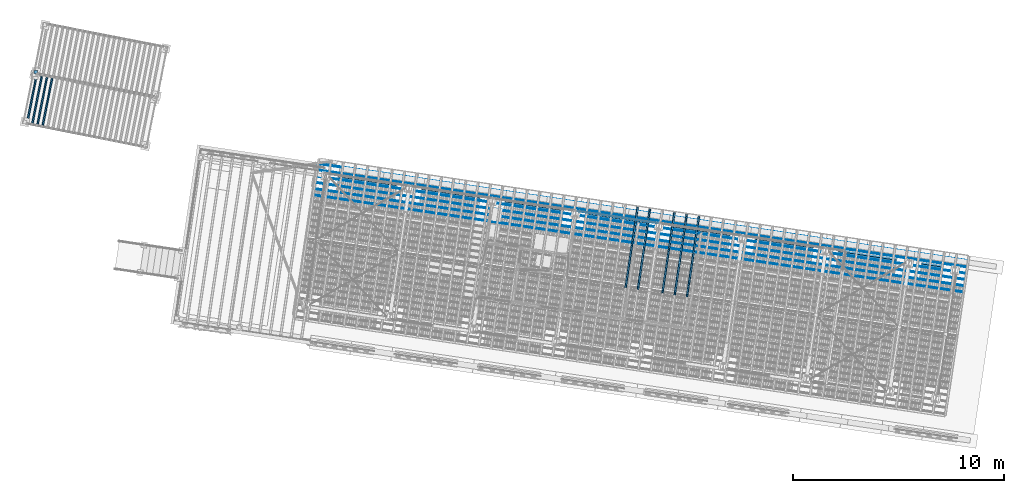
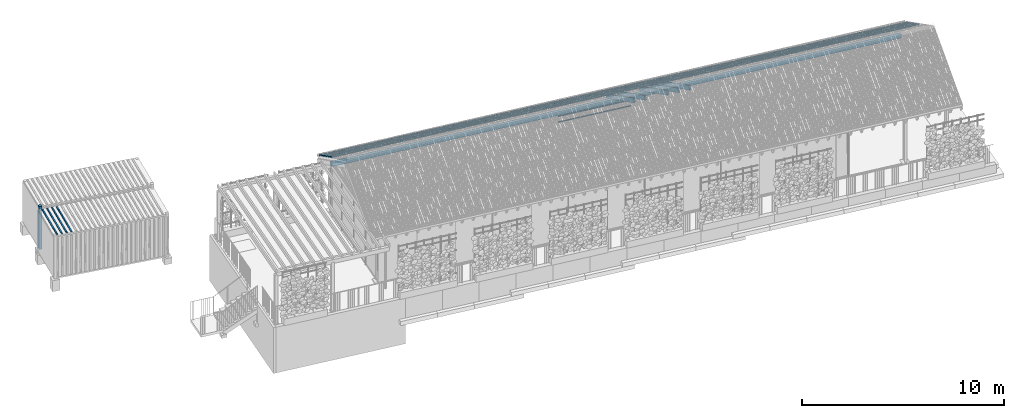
# One storey, part 78 of 128: 18 members, 2 beams, 3 elements without a shape of their own.
"""IFC4 building model written with IfcOpenShell, lengths in metres."""

from ifc_helpers import new_model, si_unit, direction, frame, origin_with_axes, place, context, subcontext, project, spatial, polyline, rectangle, outline, extrude, material, material_profile, profile_set, profile_usage, type_object, element, aggregate, save


model = new_model("IFC4")

# Units and contexts
model_context = context("Model", 3, precision=1e-05, world=origin_with_axes(), true_north=direction((0.0, 1.0)))
body_context = subcontext(model_context, "Body", "Model", "MODEL_VIEW")
ifc_project = project(units=[si_unit("VOLUMEUNIT", "CUBIC_METRE"), si_unit("LENGTHUNIT", "METRE"), si_unit("AREAUNIT", "SQUARE_METRE")], contexts=[model_context])

# Site, building, storey
site_placement = place(None, origin_with_axes())
site = spatial("IfcSite", under=ifc_project, at=site_placement, Name="Lares · Rua das Mercês · artigo 4771")
building_placement = place(site_placement, frame((15.0, 9.7, 13.9), z_axis=(0.0, 0.0, 1.0), x_axis=(0.989015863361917, -0.147809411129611, 0.0)))
building = spatial("IfcBuilding", under=site, at=building_placement, Name="Casa Sobreposta")
storey_placement = place(building_placement, origin_with_axes())
storey = spatial("IfcBuildingStorey", under=building, at=storey_placement, Name="00 · Habitação e estacionamento", Elevation=13.9)

# Beam
ifc_material_1 = material(Name="Madeira / Bauholz", Category="wood")
ifc_material_profile_1 = material_profile(ifc_material_1, rectangle(XDim=0.16, YDim=0.22))
ifc_profile_set_1 = profile_set([ifc_material_profile_1], Name="TIMBER0.160x0.220")
ifc_profile_usage_1 = profile_usage(ifc_profile_set_1)
beam_type_1 = type_object("IfcBeamType", Name="TIMBER0.160x0.220 / timber", PredefinedType="NOTDEFINED", material=ifc_profile_set_1)
beam_1_placement = place(storey_placement, frame((0.0, 6.28, 3.0), z_axis=(1.0, 0.0, 0.0), x_axis=(0.0, -1.0, 0.0)))
element("IfcBeam", 1, at=beam_1_placement, inside=storey, type_object=beam_type_1, material=ifc_profile_usage_1, Name="Cobertura · frechal longitudinal", context=body_context, shape_type="SweptSolid", body=[
    extrude(rectangle(XDim=0.16, YDim=0.22), origin_with_axes(), (0.0, 0.0, 1.0), 30.22),
])

# Members
ifc_material_2 = material(Name="Aço pintado / Stahl lackiert", Category="steel")
ifc_material_profile_2 = material_profile(ifc_material_2, rectangle(XDim=0.035, YDim=0.035))
ifc_profile_set_2 = profile_set([ifc_material_profile_2], Name="R0.035")
ifc_profile_usage_2 = profile_usage(ifc_profile_set_2)
member_type_1 = type_object("IfcMemberType", Name="R0.035 / steel", PredefinedType="NOTDEFINED", material=ifc_profile_set_2)
member_1_placement = place(storey_placement, frame((12.08, 6.4, 2.35), z_axis=(1.0, 0.0, 0.0), x_axis=(0.0, -1.0, 0.0)))
element("IfcMember", 2, at=member_1_placement, inside=storey, type_object=member_type_1, material=ifc_profile_usage_2, Name="Rasgo norte 4 · travessa", context=body_context, shape_type="SweptSolid", body=[
    extrude(rectangle(XDim=0.035, YDim=0.035), origin_with_axes(), (0.0, 0.0, 1.0), 3.84),
])
ifc_profile_usage_3 = profile_usage(ifc_profile_set_2)
member_2_placement = place(storey_placement, frame((12.08, 6.4, 2.7), z_axis=(1.0, 0.0, 0.0), x_axis=(0.0, -1.0, 0.0)))
element("IfcMember", 3, at=member_2_placement, inside=storey, type_object=member_type_1, material=ifc_profile_usage_3, Name="Rasgo norte 4 · travessa", context=body_context, shape_type="SweptSolid", body=[
    extrude(rectangle(XDim=0.035, YDim=0.035), origin_with_axes(), (0.0, 0.0, 1.0), 3.84),
])

# Roof, members, beam
roof_placement = place(storey_placement, origin_with_axes())
roof = element("IfcRoof", 4, at=roof_placement, inside=storey, material=ifc_material_1, Name="Cobertura de telha · duas águas 30 graus", PredefinedType="GABLE_ROOF")
ifc_material_profile_3 = material_profile(ifc_material_1, rectangle(XDim=0.08, YDim=0.24))
ifc_profile_set_3 = profile_set([ifc_material_profile_3], Name="TIMBER0.080x0.240")
ifc_profile_usage_4 = profile_usage(ifc_profile_set_3)
member_type_2 = type_object("IfcMemberType", Name="TIMBER0.080x0.240 / timber", PredefinedType="NOTDEFINED", material=ifc_profile_set_3)
member_3_placement = place(roof_placement, frame((14.8654716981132, 3.2, 5.0285208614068), z_axis=(0.0, 0.866025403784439, -0.5), x_axis=(1.0, 0.0, 0.0)))
member_3 = element("IfcMember", 5, at=member_3_placement, type_object=member_type_2, material=ifc_profile_usage_4, Name="Cobertura · caibro", context=body_context, shape_type="SweptSolid", body=[
    extrude(rectangle(XDim=0.08, YDim=0.24), origin_with_axes(), (0.0, 0.0, 1.0), 4.33012701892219),
])
ifc_profile_usage_5 = profile_usage(ifc_profile_set_3)
member_4_placement = place(roof_placement, frame((15.4545283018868, 3.2, 5.0285208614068), z_axis=(0.0, 0.866025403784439, -0.5), x_axis=(1.0, 0.0, 0.0)))
member_4 = element("IfcMember", 6, at=member_4_placement, type_object=member_type_2, material=ifc_profile_usage_5, Name="Cobertura · caibro", context=body_context, shape_type="SweptSolid", body=[
    extrude(rectangle(XDim=0.08, YDim=0.24), origin_with_axes(), (0.0, 0.0, 1.0), 4.33012701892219),
])
ifc_profile_usage_6 = profile_usage(ifc_profile_set_3)
member_5_placement = place(roof_placement, frame((16.632641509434, 3.2, 5.0285208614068), z_axis=(0.0, 0.866025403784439, -0.5), x_axis=(1.0, 0.0, 0.0)))
member_5 = element("IfcMember", 7, at=member_5_placement, type_object=member_type_2, material=ifc_profile_usage_6, Name="Cobertura · caibro", context=body_context, shape_type="SweptSolid", body=[
    extrude(rectangle(XDim=0.08, YDim=0.24), origin_with_axes(), (0.0, 0.0, 1.0), 4.33012701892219),
])
ifc_profile_usage_7 = profile_usage(ifc_profile_set_3)
member_6_placement = place(roof_placement, frame((17.2216981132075, 3.2, 5.0285208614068), z_axis=(0.0, 0.866025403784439, -0.5), x_axis=(1.0, 0.0, 0.0)))
member_6 = element("IfcMember", 8, at=member_6_placement, type_object=member_type_2, material=ifc_profile_usage_7, Name="Cobertura · caibro", context=body_context, shape_type="SweptSolid", body=[
    extrude(rectangle(XDim=0.08, YDim=0.24), origin_with_axes(), (0.0, 0.0, 1.0), 4.33012701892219),
])
ifc_profile_usage_8 = profile_usage(ifc_profile_set_3)
member_7_placement = place(roof_placement, frame((17.8107547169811, 3.2, 5.0285208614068), z_axis=(0.0, 0.866025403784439, -0.5), x_axis=(1.0, 0.0, 0.0)))
member_7 = element("IfcMember", 9, at=member_7_placement, type_object=member_type_2, material=ifc_profile_usage_8, Name="Cobertura · caibro", context=body_context, shape_type="SweptSolid", body=[
    extrude(rectangle(XDim=0.08, YDim=0.24), origin_with_axes(), (0.0, 0.0, 1.0), 4.33012701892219),
])
ifc_material_profile_4 = material_profile(ifc_material_1, rectangle(XDim=0.14, YDim=0.22))
ifc_profile_set_4 = profile_set([ifc_material_profile_4], Name="TIMBER0.140x0.220")
ifc_profile_usage_9 = profile_usage(ifc_profile_set_4)
beam_type_2 = type_object("IfcBeamType", Name="TIMBER0.140x0.220 / timber", PredefinedType="NOTDEFINED", material=ifc_profile_set_4)
beam_2_placement = place(roof_placement, frame((0.0, 6.4, 2.93), z_axis=(1.0, 0.0, 0.0), x_axis=(0.0, -1.0, 0.0)))
beam_2 = element("IfcBeam", 10, at=beam_2_placement, type_object=beam_type_2, material=ifc_profile_usage_9, Name="Cobertura · terça", context=body_context, shape_type="SweptSolid", body=[
    extrude(rectangle(XDim=0.14, YDim=0.22), origin_with_axes(), (0.0, 0.0, 1.0), 30.22),
])
ifc_material_profile_5 = material_profile(ifc_material_1, rectangle(XDim=0.045, YDim=0.06))
ifc_profile_set_5 = profile_set([ifc_material_profile_5], Name="TIMBER0.045x0.060")
ifc_profile_usage_10 = profile_usage(ifc_profile_set_5)
member_type_3 = type_object("IfcMemberType", Name="TIMBER0.045x0.060 / timber", PredefinedType="NOTDEFINED", material=ifc_profile_set_5)
member_8_placement = place(roof_placement, frame((-0.45, 5.3, 4.16908529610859), z_axis=(1.0, 0.0, 0.0), x_axis=(0.0, -1.0, 0.0)))
member_8 = element("IfcMember", 11, at=member_8_placement, type_object=member_type_3, material=ifc_profile_usage_10, Name="Cobertura · ripa ventilada", context=body_context, shape_type="SweptSolid", body=[
    extrude(rectangle(XDim=0.045, YDim=0.06), origin_with_axes(), (0.0, 0.0, 1.0), 31.22),
])
ifc_profile_usage_11 = profile_usage(ifc_profile_set_5)
member_9_placement = place(roof_placement, frame((-0.45, 5.6, 3.9958802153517), z_axis=(1.0, 0.0, 0.0), x_axis=(0.0, -1.0, 0.0)))
member_9 = element("IfcMember", 12, at=member_9_placement, type_object=member_type_3, material=ifc_profile_usage_11, Name="Cobertura · ripa ventilada", context=body_context, shape_type="SweptSolid", body=[
    extrude(rectangle(XDim=0.045, YDim=0.06), origin_with_axes(), (0.0, 0.0, 1.0), 31.22),
])
ifc_profile_usage_12 = profile_usage(ifc_profile_set_5)
member_10_placement = place(roof_placement, frame((-0.45, 5.9, 3.82267513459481), z_axis=(1.0, 0.0, 0.0), x_axis=(0.0, -1.0, 0.0)))
member_10 = element("IfcMember", 13, at=member_10_placement, type_object=member_type_3, material=ifc_profile_usage_12, Name="Cobertura · ripa ventilada", context=body_context, shape_type="SweptSolid", body=[
    extrude(rectangle(XDim=0.045, YDim=0.06), origin_with_axes(), (0.0, 0.0, 1.0), 31.22),
])
ifc_profile_usage_13 = profile_usage(ifc_profile_set_5)
member_11_placement = place(roof_placement, frame((-0.45, 6.2, 3.64947005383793), z_axis=(1.0, 0.0, 0.0), x_axis=(0.0, -1.0, 0.0)))
member_11 = element("IfcMember", 14, at=member_11_placement, type_object=member_type_3, material=ifc_profile_usage_13, Name="Cobertura · ripa ventilada", context=body_context, shape_type="SweptSolid", body=[
    extrude(rectangle(XDim=0.045, YDim=0.06), origin_with_axes(), (0.0, 0.0, 1.0), 31.22),
])
ifc_profile_usage_14 = profile_usage(ifc_profile_set_5)
member_12_placement = place(roof_placement, frame((-0.45, 6.5, 3.47626497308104), z_axis=(1.0, 0.0, 0.0), x_axis=(0.0, -1.0, 0.0)))
member_12 = element("IfcMember", 15, at=member_12_placement, type_object=member_type_3, material=ifc_profile_usage_14, Name="Cobertura · ripa ventilada", context=body_context, shape_type="SweptSolid", body=[
    extrude(rectangle(XDim=0.045, YDim=0.06), origin_with_axes(), (0.0, 0.0, 1.0), 31.22),
])
ifc_profile_usage_15 = profile_usage(ifc_profile_set_5)
member_13_placement = place(roof_placement, frame((-0.45, 6.8, 3.30305989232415), z_axis=(1.0, 0.0, 0.0), x_axis=(0.0, -1.0, 0.0)))
member_13 = element("IfcMember", 16, at=member_13_placement, type_object=member_type_3, material=ifc_profile_usage_15, Name="Cobertura · ripa ventilada", context=body_context, shape_type="SweptSolid", body=[
    extrude(rectangle(XDim=0.045, YDim=0.06), origin_with_axes(), (0.0, 0.0, 1.0), 31.22),
])
aggregate(roof, [member_3, member_4, member_5, member_6, member_7, beam_2, member_8, member_9, member_10, member_11, member_12, member_13])

# Assembly, member
assembly_1_placement = place(storey_placement, frame((-14.4335953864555, 9.04888612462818, 0.0), z_axis=(0.0, 0.0, 1.0), x_axis=(0.999032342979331, -0.0439815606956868, 0.0)))
assembly_1 = element("IfcElementAssembly", 17, at=assembly_1_placement, inside=storey, Name="Contentor existente 1 · 6 m", ObjectType="EXISTING_SHIPPING_CONTAINER", PredefinedType="USERDEFINED")
ifc_material_3 = material(Name="Contentor · pintura 1", Category="steel")
member_14_placement = place(assembly_1_placement, frame((0.0, 0.0, -0.263141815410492), z_axis=(0.0, 0.0, 1.0), x_axis=(1.0, 0.0, 0.0)))
member_14 = element("IfcMember", 18, at=member_14_placement, material=ifc_material_3, Name="Contentor · canto", context=body_context, shape_type="SweptSolid", body=[
    extrude(outline(polyline([(0.16, 0.0), (0.16, 0.16), (0.0, 0.16), (0.0, 0.0), (0.16, 0.0)])), origin_with_axes(), (0.0, 0.0, 1.0), 2.59),
])
aggregate(assembly_1, [member_14])

# Assembly, members
assembly_2_placement = place(storey_placement, frame((-14.5932944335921, 6.63122214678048, 0.0), z_axis=(0.0, 0.0, 1.0), x_axis=(0.998832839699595, -0.0483007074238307, 0.0)))
assembly_2 = element("IfcElementAssembly", 19, at=assembly_2_placement, inside=storey, Name="Contentor existente 2 · 6 m", ObjectType="EXISTING_SHIPPING_CONTAINER", PredefinedType="USERDEFINED")
ifc_material_4 = material(Name="Contentor · pintura 2", Category="steel")
member_15_placement = place(assembly_2_placement, frame((0.0, 0.0, 2.16624830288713), z_axis=(0.0, 0.0, 1.0), x_axis=(1.0, 0.0, 0.0)))
member_15 = element("IfcMember", 20, at=member_15_placement, material=ifc_material_4, Name="Contentor · nervura cobertura", context=body_context, shape_type="SweptSolid", body=[
    extrude(outline(polyline([(0.23, 0.08), (0.23, 2.36), (0.15, 2.36), (0.15, 0.08), (0.23, 0.08)])), origin_with_axes(), (0.0, 0.0, 1.0), 0.018),
])
member_16_placement = place(assembly_2_placement, frame((0.0, 0.0, 2.16624830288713), z_axis=(0.0, 0.0, 1.0), x_axis=(1.0, 0.0, 0.0)))
member_16 = element("IfcMember", 21, at=member_16_placement, material=ifc_material_4, Name="Contentor · nervura cobertura", context=body_context, shape_type="SweptSolid", body=[
    extrude(outline(polyline([(0.48, 0.08), (0.48, 2.36), (0.4, 2.36), (0.4, 0.08), (0.48, 0.08)])), origin_with_axes(), (0.0, 0.0, 1.0), 0.018),
])
member_17_placement = place(assembly_2_placement, frame((0.0, 0.0, 2.16624830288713), z_axis=(0.0, 0.0, 1.0), x_axis=(1.0, 0.0, 0.0)))
member_17 = element("IfcMember", 22, at=member_17_placement, material=ifc_material_4, Name="Contentor · nervura cobertura", context=body_context, shape_type="SweptSolid", body=[
    extrude(outline(polyline([(0.73, 0.08), (0.73, 2.36), (0.65, 2.36), (0.65, 0.08), (0.73, 0.08)])), origin_with_axes(), (0.0, 0.0, 1.0), 0.018),
])
member_18_placement = place(assembly_2_placement, frame((0.0, 0.0, 2.16624830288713), z_axis=(0.0, 0.0, 1.0), x_axis=(1.0, 0.0, 0.0)))
member_18 = element("IfcMember", 23, at=member_18_placement, material=ifc_material_4, Name="Contentor · nervura cobertura", context=body_context, shape_type="SweptSolid", body=[
    extrude(outline(polyline([(0.98, 0.08), (0.98, 2.36), (0.9, 2.36), (0.9, 0.08), (0.98, 0.08)])), origin_with_axes(), (0.0, 0.0, 1.0), 0.018),
])
aggregate(assembly_2, [member_15, member_16, member_17, member_18])

save(model, "model.ifc")
